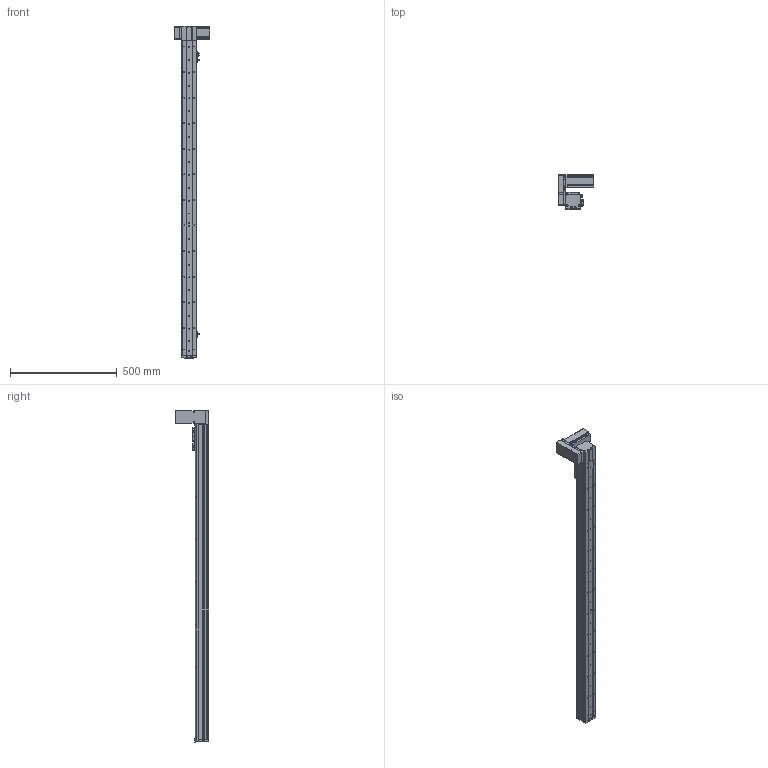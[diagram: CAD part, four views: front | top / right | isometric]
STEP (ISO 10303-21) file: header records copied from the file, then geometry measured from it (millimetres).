
FILE_DESCRIPTION (( 'STEP AP214' ), '1' );
FILE_NAME ('KSD68BS-S1300-MRU-CR.STEP', '2019-08-29T00:53:22', ( '微软用户' ), ( '微软中国' ), 'SwSTEP 2.0', 'SolidWorks 2014', '' );
FILE_SCHEMA (( 'AUTOMOTIVE_DESIGN' ));
Length unit declared in the file: millimetre
Products named in the file (14): KSD68BS 1300行程底板全封闭; KSD68BS-S1300-MRU-CR; KSD68BS 1300行程盖板全封闭; 68宽单导轨全封闭丝杆传动安装板1防护罩; KSD68BS 1300行程侧板全封闭; 68宽单导轨全封闭同步带端板; 68单导轨全封闭同步带电机座右; 68遵裔啣揤啣1; 68单导轨全封闭同步带安装板; 悵誘欶奻狟殏; 68宽马达安装板连板上折同步带; 感应片68宽全封闭; U倰嫖萇EEㄜSX672; 台达ECMA－C20604AS伺服电机（400W)
Assembly tree (17 placements, depth 2):
  KSD68BS-S1300-MRU-CR
    KSD68BS 1300行程底板全封闭
    台达ECMA－C20604AS伺服电机（400W)
    U倰嫖萇EEㄜSX672  x3
    感应片68宽全封闭
    68宽马达安装板连板上折同步带
    悵誘欶奻狟殏
    68单导轨全封闭同步带安装板
    68单导轨全封闭同步带电机座右
    68宽单导轨全封闭同步带端板
    KSD68BS 1300行程侧板全封闭  x2
    68宽单导轨全封闭丝杆传动安装板1防护罩
    68遵裔啣揤啣1  x2
    KSD68BS 1300行程盖板全封闭
Bounding box: 167.2 x 159.5 x 1558.1 mm (x, y, z)
Volume: 2941111.5 mm3; surface area: 1163020.7 mm2
Topology: 18 solids, 18 shells, 1572 faces, 4505 edges, 2873 vertices
Faces by surface type: cylinder 761, plane 631, cone 180
Entity records: 50634 total; most frequent: CARTESIAN_POINT 8735, DIRECTION 7561, ORIENTED_EDGE 7230, EDGE_CURVE 3615, AXIS2_PLACEMENT_3D 2745, VERTEX_POINT 2371, VECTOR 2071, LINE 2071
